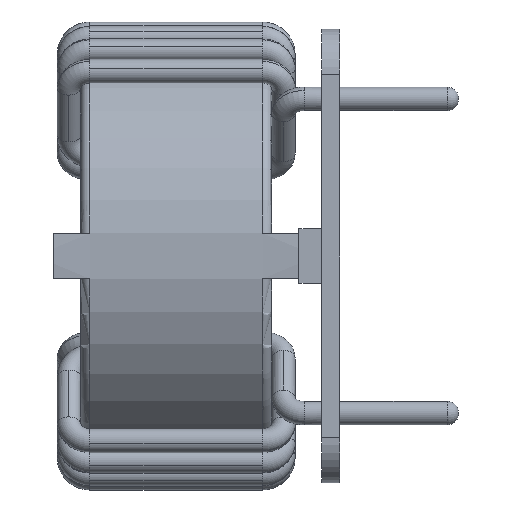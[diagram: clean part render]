
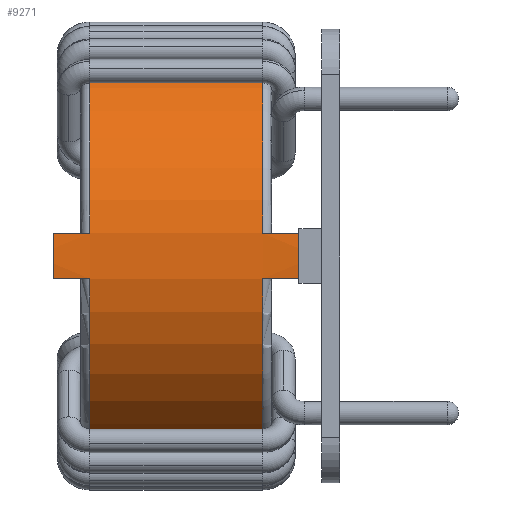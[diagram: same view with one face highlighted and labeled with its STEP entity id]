
A CAD part, left-side view. The second image highlights one B-rep face of the part: STEP entity #9271.
In plain terms, the highlighted cylindrical face has radius 23.171 mm (diameter 46.342 mm), a partial arc.
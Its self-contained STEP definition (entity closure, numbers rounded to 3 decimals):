
#289 = VERTEX_POINT ( 'NONE', #7026 ) ;
#384 = CARTESIAN_POINT ( 'NONE',  ( 0., 8.5, -23.171 ) ) ;
#404 = VECTOR ( 'NONE', #2801, 1000. ) ;
#433 = ORIENTED_EDGE ( 'NONE', *, *, #8096, .F. ) ;
#484 = EDGE_CURVE ( 'NONE', #11697, #11188, #4781, .T. ) ;
#940 = VECTOR ( 'NONE', #12451, 1000. ) ;
#1167 = CARTESIAN_POINT ( 'NONE',  ( -23.036, 31.525, 2.5 ) ) ;
#1190 = CARTESIAN_POINT ( 'NONE',  ( -23.036, 8.5, -2.5 ) ) ;
#1342 = DIRECTION ( 'NONE',  ( 0., -1., 0. ) ) ;
#1419 = EDGE_CURVE ( 'NONE', #10708, #8786, #3605, .T. ) ;
#1792 = CARTESIAN_POINT ( 'NONE',  ( -23.036, 31.525, 2.5 ) ) ;
#1819 = LINE ( 'NONE', #6476, #404 ) ;
#1862 = CARTESIAN_POINT ( 'NONE',  ( 0., 27.525, 23.171 ) ) ;
#1869 = DIRECTION ( 'NONE',  ( 0., 1., 0. ) ) ;
#1880 = DIRECTION ( 'NONE',  ( 0., -1., 0. ) ) ;
#1981 = DIRECTION ( 'NONE',  ( 0., 0., -1. ) ) ;
#2301 = ORIENTED_EDGE ( 'NONE', *, *, #1419, .F. ) ;
#2411 = LINE ( 'NONE', #1167, #3421 ) ;
#2444 = EDGE_CURVE ( 'NONE', #5422, #8786, #6613, .T. ) ;
#2470 = EDGE_CURVE ( 'NONE', #4706, #7975, #7073, .T. ) ;
#2544 = ORIENTED_EDGE ( 'NONE', *, *, #11363, .T. ) ;
#2606 = VERTEX_POINT ( 'NONE', #7529 ) ;
#2770 = DIRECTION ( 'NONE',  ( 0., -1., 0. ) ) ;
#2801 = DIRECTION ( 'NONE',  ( 0., -1., 0. ) ) ;
#2995 = DIRECTION ( 'NONE',  ( 0., -1., 0. ) ) ;
#3282 = DIRECTION ( 'NONE',  ( 0., 0., 1. ) ) ;
#3421 = VECTOR ( 'NONE', #9581, 1000. ) ;
#3575 = CARTESIAN_POINT ( 'NONE',  ( 0., 28.525, 23.171 ) ) ;
#3605 = LINE ( 'NONE', #1792, #6828 ) ;
#3677 = DIRECTION ( 'NONE',  ( 0., 0., 1. ) ) ;
#3684 = ORIENTED_EDGE ( 'NONE', *, *, #12257, .T. ) ;
#3774 = DIRECTION ( 'NONE',  ( 0., 0., 1. ) ) ;
#3788 = CARTESIAN_POINT ( 'NONE',  ( 0., 28.525, 0. ) ) ;
#4024 = AXIS2_PLACEMENT_3D ( 'NONE', #8807, #1880, #3282 ) ;
#4070 = CARTESIAN_POINT ( 'NONE',  ( 0., 31.525, 0. ) ) ;
#4076 = ORIENTED_EDGE ( 'NONE', *, *, #484, .T. ) ;
#4173 = ORIENTED_EDGE ( 'NONE', *, *, #10161, .T. ) ;
#4293 = DIRECTION ( 'NONE',  ( 0., 0., 1. ) ) ;
#4353 = EDGE_CURVE ( 'NONE', #6232, #2606, #1819, .T. ) ;
#4644 = LINE ( 'NONE', #12191, #12454 ) ;
#4706 = VERTEX_POINT ( 'NONE', #1862 ) ;
#4781 = CIRCLE ( 'NONE', #6254, 23.171 ) ;
#4940 = CARTESIAN_POINT ( 'NONE',  ( -23.036, 8.5, 2.5 ) ) ;
#5068 = DIRECTION ( 'NONE',  ( 0., 1., 0. ) ) ;
#5231 = DIRECTION ( 'NONE',  ( 0., -1., 0. ) ) ;
#5422 = VERTEX_POINT ( 'NONE', #10560 ) ;
#5565 = AXIS2_PLACEMENT_3D ( 'NONE', #11293, #5935, #4293 ) ;
#5873 = CARTESIAN_POINT ( 'NONE',  ( 0., 8.5, 0. ) ) ;
#5935 = DIRECTION ( 'NONE',  ( 0., -1., 0. ) ) ;
#6069 = CARTESIAN_POINT ( 'NONE',  ( -23.036, 31.525, 2.5 ) ) ;
#6182 = CIRCLE ( 'NONE', #5565, 23.171 ) ;
#6232 = VERTEX_POINT ( 'NONE', #10991 ) ;
#6254 = AXIS2_PLACEMENT_3D ( 'NONE', #8283, #11566, #11766 ) ;
#6367 = EDGE_CURVE ( 'NONE', #10708, #7975, #10526, .T. ) ;
#6476 = CARTESIAN_POINT ( 'NONE',  ( -23.036, 31.525, -2.5 ) ) ;
#6613 = CIRCLE ( 'NONE', #8912, 23.171 ) ;
#6828 = VECTOR ( 'NONE', #2995, 1000. ) ;
#6910 = CARTESIAN_POINT ( 'NONE',  ( 0., 8.5, 23.171 ) ) ;
#7026 = CARTESIAN_POINT ( 'NONE',  ( -23.036, 27.525, 2.5 ) ) ;
#7073 = LINE ( 'NONE', #3575, #9471 ) ;
#7122 = EDGE_CURVE ( 'NONE', #11188, #5422, #4644, .T. ) ;
#7443 = CARTESIAN_POINT ( 'NONE',  ( -23.036, 4.5, 2.5 ) ) ;
#7529 = CARTESIAN_POINT ( 'NONE',  ( -23.036, 27.525, -2.5 ) ) ;
#7610 = VERTEX_POINT ( 'NONE', #11450 ) ;
#7671 = ORIENTED_EDGE ( 'NONE', *, *, #4353, .T. ) ;
#7807 = ORIENTED_EDGE ( 'NONE', *, *, #7904, .F. ) ;
#7904 = EDGE_CURVE ( 'NONE', #9954, #289, #2411, .T. ) ;
#7975 = VERTEX_POINT ( 'NONE', #6910 ) ;
#8096 = EDGE_CURVE ( 'NONE', #6232, #9954, #9373, .T. ) ;
#8283 = CARTESIAN_POINT ( 'NONE',  ( 0., 8.5, 0. ) ) ;
#8298 = FACE_OUTER_BOUND ( 'NONE', #11789, .T. ) ;
#8768 = LINE ( 'NONE', #10851, #940 ) ;
#8786 = VERTEX_POINT ( 'NONE', #7443 ) ;
#8807 = CARTESIAN_POINT ( 'NONE',  ( 0., 27.525, 0. ) ) ;
#8828 = ORIENTED_EDGE ( 'NONE', *, *, #7122, .T. ) ;
#8912 = AXIS2_PLACEMENT_3D ( 'NONE', #11119, #10573, #3774 ) ;
#9271 = ADVANCED_FACE ( 'NONE', ( #8298 ), #10170, .T. ) ;
#9373 = CIRCLE ( 'NONE', #10498, 23.171 ) ;
#9471 = VECTOR ( 'NONE', #5231, 1000. ) ;
#9581 = DIRECTION ( 'NONE',  ( 0., -1., 0. ) ) ;
#9678 = AXIS2_PLACEMENT_3D ( 'NONE', #3788, #2770, #1981 ) ;
#9954 = VERTEX_POINT ( 'NONE', #6069 ) ;
#10119 = ORIENTED_EDGE ( 'NONE', *, *, #2444, .T. ) ;
#10161 = EDGE_CURVE ( 'NONE', #7610, #11697, #8768, .T. ) ;
#10170 = CYLINDRICAL_SURFACE ( 'NONE', #9678, 23.171 ) ;
#10498 = AXIS2_PLACEMENT_3D ( 'NONE', #4070, #1869, #3677 ) ;
#10526 = CIRCLE ( 'NONE', #12232, 23.171 ) ;
#10560 = CARTESIAN_POINT ( 'NONE',  ( -23.036, 4.5, -2.5 ) ) ;
#10573 = DIRECTION ( 'NONE',  ( 0., 1., 0. ) ) ;
#10708 = VERTEX_POINT ( 'NONE', #4940 ) ;
#10851 = CARTESIAN_POINT ( 'NONE',  ( 0., 28.525, -23.171 ) ) ;
#10870 = ORIENTED_EDGE ( 'NONE', *, *, #2470, .F. ) ;
#10893 = CIRCLE ( 'NONE', #4024, 23.171 ) ;
#10976 = ORIENTED_EDGE ( 'NONE', *, *, #6367, .T. ) ;
#10991 = CARTESIAN_POINT ( 'NONE',  ( -23.036, 31.525, -2.5 ) ) ;
#11119 = CARTESIAN_POINT ( 'NONE',  ( 0., 4.5, 0. ) ) ;
#11188 = VERTEX_POINT ( 'NONE', #1190 ) ;
#11293 = CARTESIAN_POINT ( 'NONE',  ( 0., 27.525, 0. ) ) ;
#11363 = EDGE_CURVE ( 'NONE', #2606, #7610, #10893, .T. ) ;
#11450 = CARTESIAN_POINT ( 'NONE',  ( 0., 27.525, -23.171 ) ) ;
#11566 = DIRECTION ( 'NONE',  ( 0., 1., 0. ) ) ;
#11697 = VERTEX_POINT ( 'NONE', #384 ) ;
#11766 = DIRECTION ( 'NONE',  ( 0., 0., 1. ) ) ;
#11789 = EDGE_LOOP ( 'NONE', ( #10870, #3684, #7807, #433, #7671, #2544, #4173, #4076, #8828, #10119, #2301, #10976 ) ) ;
#12191 = CARTESIAN_POINT ( 'NONE',  ( -23.036, 31.525, -2.5 ) ) ;
#12208 = DIRECTION ( 'NONE',  ( 0., 0., 1. ) ) ;
#12232 = AXIS2_PLACEMENT_3D ( 'NONE', #5873, #5068, #12208 ) ;
#12257 = EDGE_CURVE ( 'NONE', #4706, #289, #6182, .T. ) ;
#12451 = DIRECTION ( 'NONE',  ( 0., -1., 0. ) ) ;
#12454 = VECTOR ( 'NONE', #1342, 1000. ) ;
